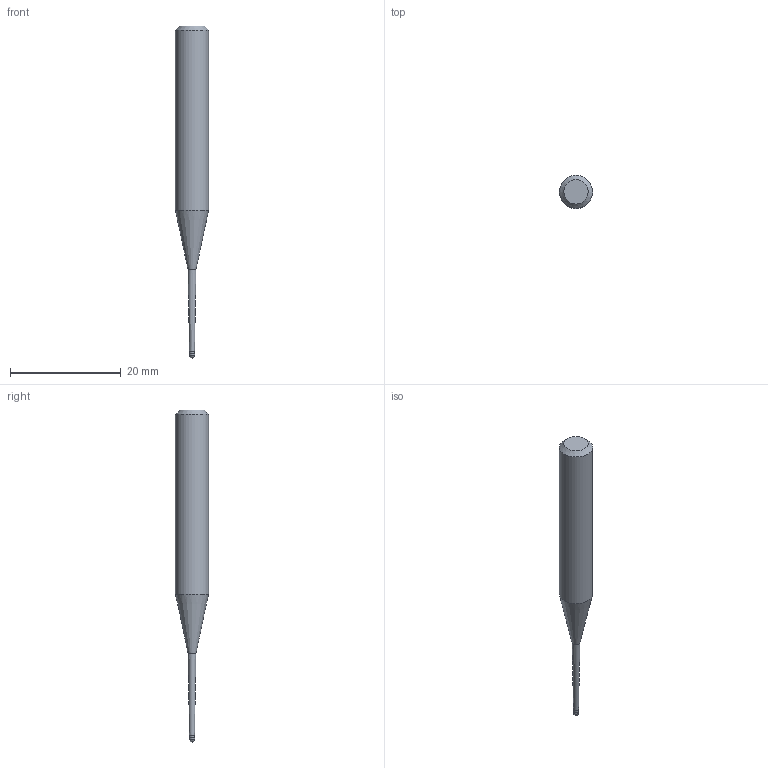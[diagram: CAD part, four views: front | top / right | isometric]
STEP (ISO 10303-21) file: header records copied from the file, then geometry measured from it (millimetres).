
FILE_DESCRIPTION((''),'2;1');
FILE_NAME('C:\Users\nsx150\AppData\Local\Temp\Mastercam 2021\E0ENTZRV18\TEMP.step','2021-09-02T09:56:02',(''),(''),'STEP Write','Mastercam 2021 ... CNC Software, Inc.','');
FILE_SCHEMA(('AUTOMOTIVE_DESIGN'));
Length unit declared in the file: millimetre
Products named in the file (1): None
Bounding box: 6 x 6 x 60 mm (x, y, z)
Volume: 1083.5 mm3; surface area: 833.5 mm2
Topology: 2 solids, 2 shells, 10 faces, 16 edges, 9 vertices
Faces by surface type: plane 3, cylinder 3, cone 3, sphere 1
Full cylindrical faces by diameter (mm): 0.905 x1, 1 x1, 6 x1
Entity records: 232 total; most frequent: DIRECTION 40, CARTESIAN_POINT 28, AXIS2_PLACEMENT_3D 20, ORIENTED_EDGE 16, EDGE_LOOP 16, STYLED_ITEM 13, ADVANCED_FACE 10, FACE_BOUND 9
